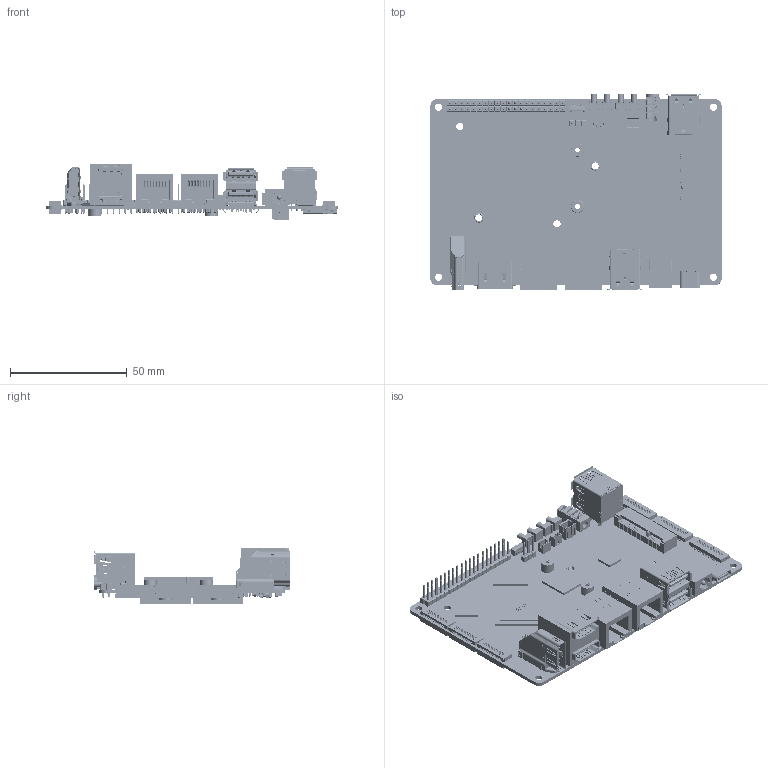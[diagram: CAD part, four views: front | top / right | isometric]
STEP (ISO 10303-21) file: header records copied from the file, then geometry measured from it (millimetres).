
FILE_DESCRIPTION (( 'STEP AP214' ), '1' );
FILE_NAME ('LubanCat 5-PCB 3D恅璃.STEP', '2024-09-11T09:09:07', ( '' ), ( '' ), 'SwSTEP 2.0', 'SolidWorks 2023', '' );
FILE_SCHEMA (( 'AUTOMOTIVE_DESIGN' ));
Length unit declared in the file: millimetre
Products named in the file (34): 边三脚侧插侧按按键254gf; 72r3759_2007435; M.2-11+22针角 4.8高; 侧贴片红灯; IRM-v838M3 红外贴片; 贴片螺柱M2x3; 贴片螺柱M3x3.5; 1.25X2pin; User Library-DC044A; 20X2; LubanCat 5-PCB 3D文件; PCIE-52P56H; User Library-pj-393-8_PJ-393-8_4; 3PIN; 双层HDMI; User Library-pj-393-8_PJ-393-8_2; User Library-pj-393-8_PJ-393-8_1; 双层HDMI块; x05a20l30t; USB2.0双层卷边 零件; SIM卡mini; USB3.0+2.0卷边座子 零件; M.2-4+29针角 4.75高; User Library-USB-TYPE-C20; ZH 2P 插件1.5MM; User Library-pj-393-8; User Library-Micro_SD_Socket_Push-push; 零件3^User Library-pj-393-8; 零件4^User Library-pj-393-8; HDMI; 鲁班猫5板图; x05a20l24t; A2001WV-2P; HR911130A
Assembly tree (52 placements, depth 3):
  LubanCat 5-PCB 3D文件
    鲁班猫5板图
    User Library-USB-TYPE-C20
    USB3.0+2.0卷边座子 零件
    User Library-DC044A
    20X2
    User Library-pj-393-8
      User Library-pj-393-8_PJ-393-8_1
      User Library-pj-393-8_PJ-393-8_2  x4
      User Library-pj-393-8_PJ-393-8_4  x3
      零件4^User Library-pj-393-8
    USB2.0双层卷边 零件
    边三脚侧插侧按按键254gf  x4
    72r3759_2007435
    HR911130A  x2
    IRM-v838M3 红外贴片
    ZH 2P 插件1.5MM
    1.25X2pin
    3PIN
    PCIE-52P56H
    A2001WV-2P
    x05a20l30t  x3
    x05a20l24t  x6
    双层HDMI
      双层HDMI块
      HDMI  x2
    User Library-Micro_SD_Socket_Push-push
    SIM卡mini
    M.2-4+29针角 4.75高
    M.2-11+22针角 4.8高
    贴片螺柱M3x3.5  x2
    贴片螺柱M2x3  x2
    侧贴片红灯  x2
  零件3^User Library-pj-393-8
Bounding box: 125 x 84.2 x 24.31 mm (x, y, z)
Volume: 40809.2 mm3; surface area: 58144.4 mm2
Topology: 300 solids, 394 shells, 21257 faces, 59838 edges, 38994 vertices
Faces by surface type: plane 15804, cylinder 3615, bspline 1581, cone 147, torus 73, sphere 37
Entity records: 482535 total; most frequent: CARTESIAN_POINT 129017, ORIENTED_EDGE 77322, DIRECTION 63765, EDGE_CURVE 38769, LINE 30489, VECTOR 30489, VERTEX_POINT 25313, AXIS2_PLACEMENT_3D 16638
